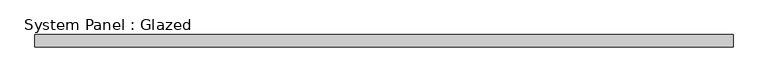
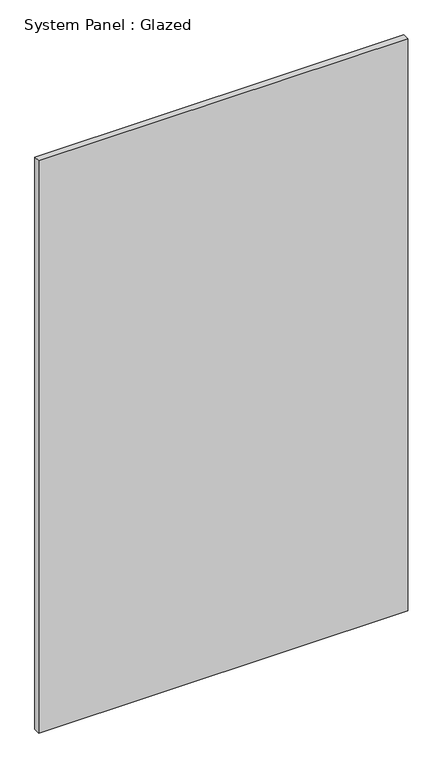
"""IFC4 building model written with IfcOpenShell, lengths in millimetres: plate geometry, System Panel : Glazed."""

from ifc_helpers import new_model, si_unit, origin, origin_with_axes, place, context, project, spatial, polyline, outline, extrude, source, transform, mapped, element, save


def system_panel_glazed_c45153f5(model_context):
    return source(origin(), model_context, "Body", "SweptSolid", [
        extrude(outline(polyline([(714.3750001, -44.45), (-714.3750001, -44.45), (-714.3750001, -19.05), (714.3750001, -19.05), (714.3750001, -44.45)])), origin_with_axes(), (0.0, 0.0, 1.0), 2343.15),
    ])


if __name__ == "__main__":
    model = new_model("IFC4")
    model_context = context("Model", 3, world=origin())
    ifc_project = project(units=[si_unit("LENGTHUNIT", "METRE", prefix="MILLI")], contexts=[model_context])
    site = spatial("IfcSite", under=ifc_project)
    building = spatial("IfcBuilding", under=site)
    placement = place(None, origin())
    system_panel_glazed_shape = system_panel_glazed_c45153f5(model_context)
    element("IfcPlate", 1, ObjectType="System Panel : Glazed", at=placement, inside=building, context=model_context, shape_type="MappedRepresentation", body=[
        mapped(system_panel_glazed_shape, transform((0.0, 0.0, 0.0), x_axis=(1.0, 0.0, 0.0), y_axis=(0.0, 1.0, 0.0), z_axis=(0.0, 0.0, 1.0))),
    ])
    save(model, "model.ifc")
